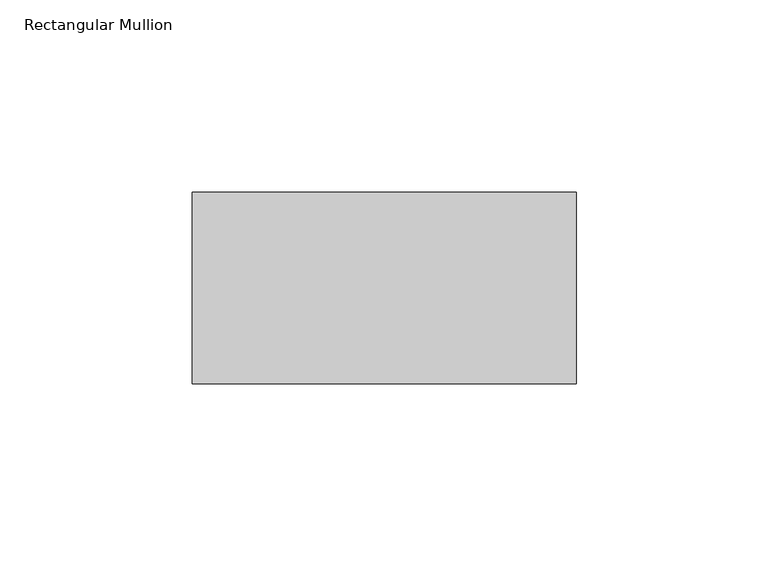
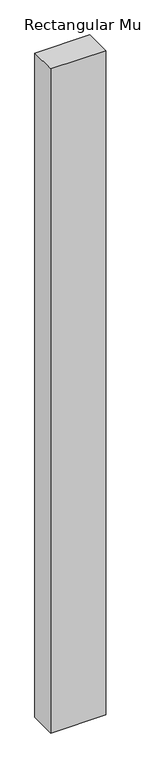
"""IFC4 building model written with IfcOpenShell, lengths in millimetres: member geometry, Rectangular Mullion : Mullion_Curtain Wall_Generic Showcase_50x100mm."""

from ifc_helpers import new_model, si_unit, frame, origin, place, context, project, spatial, polyline, outline, extrude, source, transform, mapped, element, save


def rectangular_mullion_e5955efa(model_context):
    return source(origin(), model_context, "Body", "SweptSolid", [
        extrude(outline(polyline([(0.0, 50.0), (0.0, 0.0), (-100.0, 0.0), (-100.0, 50.0), (0.0, 50.0)])), frame((0.0, 0.0, -1275.0), z_axis=(0.0, 0.0, 1.0), x_axis=(1.0, 0.0, 0.0)), (0.0, 0.0, 1.0), 1275.0),
    ])


if __name__ == "__main__":
    model = new_model("IFC4")
    model_context = context("Model", 3, world=origin())
    ifc_project = project(units=[si_unit("LENGTHUNIT", "METRE", prefix="MILLI")], contexts=[model_context])
    site = spatial("IfcSite", under=ifc_project)
    building = spatial("IfcBuilding", under=site)
    placement = place(None, origin())
    rectangular_mullion_shape = rectangular_mullion_e5955efa(model_context)
    element("IfcMember", 1, ObjectType="Rectangular Mullion : Mullion_Curtain Wall_Generic Showcase_50x100mm", at=placement, inside=building, context=model_context, shape_type="MappedRepresentation", body=[
        mapped(rectangular_mullion_shape, transform((0.0, 0.0, 0.0), x_axis=(1.0, 0.0, 0.0), y_axis=(0.0, 1.0, 0.0), z_axis=(0.0, 0.0, 1.0))),
    ])
    save(model, "model.ifc")
